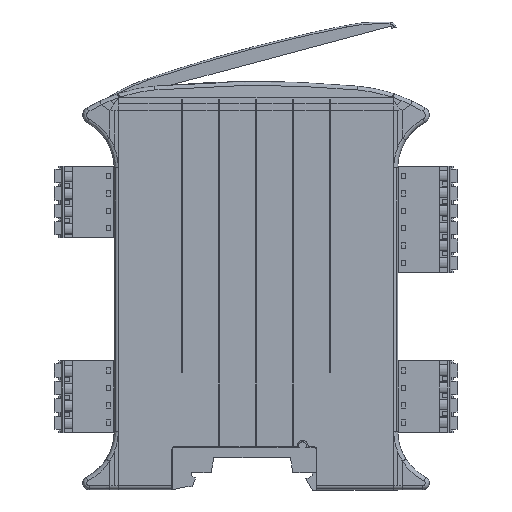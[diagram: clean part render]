
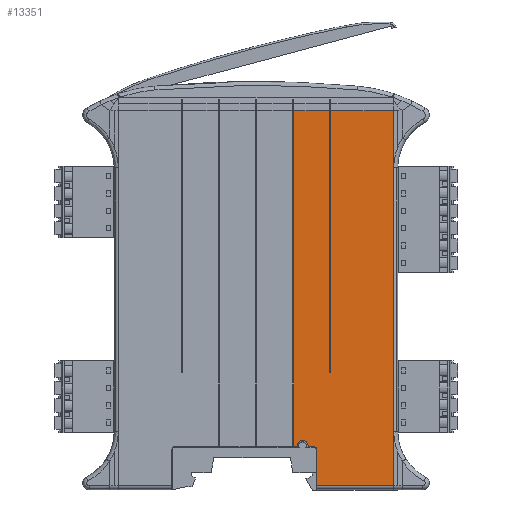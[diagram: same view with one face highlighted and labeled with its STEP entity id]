
A CAD part, left-side view. The second image highlights one B-rep face of the part: STEP entity #13351.
In plain terms, the highlighted planar face has unit normal (-1, 0, 0) as drawn and (0, 0, -1) by its records, which use the part's own axes.
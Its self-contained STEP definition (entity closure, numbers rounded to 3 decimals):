
#8523=CARTESIAN_POINT('Vertex',(5.342,19.209,0.)) ;
#9140=CARTESIAN_POINT('Vertex',(-4.958,19.209,0.)) ;
#9312=CARTESIAN_POINT('Vertex',(-5.458,19.209,0.)) ;
#10643=CARTESIAN_POINT('Vertex',(-4.958,-57.206,0.)) ;
#10646=CARTESIAN_POINT('Line Origine',(-4.958,-4.351,0.)) ;
#10673=CARTESIAN_POINT('Vertex',(-5.458,-57.206,0.)) ;
#10676=CARTESIAN_POINT('Line Origine',(-5.208,-57.206,0.)) ;
#10693=CARTESIAN_POINT('Line Origine',(-5.458,-44.529,0.)) ;
#10710=CARTESIAN_POINT('Line Origine',(4.867,-78.651,0.)) ;
#10714=CARTESIAN_POINT('Vertex',(5.342,-78.651,0.)) ;
#10716=CARTESIAN_POINT('Vertex',(4.392,-78.651,0.)) ;
#10766=CARTESIAN_POINT('Axis2P3D Location',(2.792,-78.651,0.)) ;
#10770=CARTESIAN_POINT('Vertex',(1.192,-78.651,0.)) ;
#10797=CARTESIAN_POINT('Line Origine',(0.542,-78.651,0.)) ;
#10801=CARTESIAN_POINT('Vertex',(-0.108,-78.651,0.)) ;
#10828=CARTESIAN_POINT('Axis2P3D Location',(-0.108,-79.651,0.)) ;
#10832=CARTESIAN_POINT('Vertex',(-1.108,-79.651,0.)) ;
#10859=CARTESIAN_POINT('Line Origine',(-1.108,-84.901,0.)) ;
#10863=CARTESIAN_POINT('Vertex',(-1.108,-90.151,0.)) ;
#10922=CARTESIAN_POINT('Line Origine',(16.392,19.209,0.)) ;
#10926=CARTESIAN_POINT('Vertex',(-23.579,19.209,0.)) ;
#10947=CARTESIAN_POINT('Line Origine',(16.392,19.209,0.)) ;
#10964=CARTESIAN_POINT('Line Origine',(5.342,-59.101,0.)) ;
#11065=CARTESIAN_POINT('Vertex',(-23.579,-90.151,0.)) ;
#11068=CARTESIAN_POINT('Line Origine',(41.642,-90.151,0.)) ;
#13326=CARTESIAN_POINT('Axis2P3D Location',(16.392,-31.851,0.)) ;
#13331=CARTESIAN_POINT('Line Origine',(-23.579,-35.471,0.)) ;
#10647=DIRECTION('Vector Direction',(0.,-1.,0.)) ;
#10677=DIRECTION('Vector Direction',(-1.,0.,0.)) ;
#10694=DIRECTION('Vector Direction',(0.,1.,0.)) ;
#10711=DIRECTION('Vector Direction',(-1.,0.,0.)) ;
#10767=DIRECTION('Axis2P3D Direction',(0.,0.,-1.)) ;
#10798=DIRECTION('Vector Direction',(-1.,0.,0.)) ;
#10829=DIRECTION('Axis2P3D Direction',(0.,0.,-1.)) ;
#10860=DIRECTION('Vector Direction',(0.,-1.,0.)) ;
#10923=DIRECTION('Vector Direction',(1.,0.,0.)) ;
#10948=DIRECTION('Vector Direction',(1.,0.,0.)) ;
#10965=DIRECTION('Vector Direction',(0.,1.,0.)) ;
#11069=DIRECTION('Vector Direction',(1.,0.,0.)) ;
#13327=DIRECTION('Axis2P3D Direction',(0.,0.,1.)) ;
#13328=DIRECTION('Axis2P3D XDirection',(1.,0.,0.)) ;
#13332=DIRECTION('Vector Direction',(0.,1.,0.)) ;
#10768=AXIS2_PLACEMENT_3D('Circle Axis2P3D',#10766,#10767,$) ;
#10830=AXIS2_PLACEMENT_3D('Circle Axis2P3D',#10828,#10829,$) ;
#13329=AXIS2_PLACEMENT_3D('Plane Axis2P3D',#13326,#13327,#13328) ;
#13337=ORIENTED_EDGE('',*,*,#10718,.T.) ;
#13338=ORIENTED_EDGE('',*,*,#10772,.T.) ;
#13339=ORIENTED_EDGE('',*,*,#10803,.T.) ;
#13340=ORIENTED_EDGE('',*,*,#10834,.T.) ;
#13341=ORIENTED_EDGE('',*,*,#10865,.T.) ;
#13342=ORIENTED_EDGE('',*,*,#11072,.F.) ;
#13343=ORIENTED_EDGE('',*,*,#13335,.T.) ;
#13344=ORIENTED_EDGE('',*,*,#10928,.F.) ;
#13345=ORIENTED_EDGE('',*,*,#10697,.F.) ;
#13346=ORIENTED_EDGE('',*,*,#10680,.F.) ;
#13347=ORIENTED_EDGE('',*,*,#10650,.F.) ;
#13348=ORIENTED_EDGE('',*,*,#10951,.F.) ;
#13349=ORIENTED_EDGE('',*,*,#10968,.F.) ;
#10648=VECTOR('Line Direction',#10647,1.) ;
#10678=VECTOR('Line Direction',#10677,1.) ;
#10695=VECTOR('Line Direction',#10694,1.) ;
#10712=VECTOR('Line Direction',#10711,1.) ;
#10799=VECTOR('Line Direction',#10798,1.) ;
#10861=VECTOR('Line Direction',#10860,1.) ;
#10924=VECTOR('Line Direction',#10923,1.) ;
#10949=VECTOR('Line Direction',#10948,1.) ;
#10966=VECTOR('Line Direction',#10965,1.) ;
#11070=VECTOR('Line Direction',#11069,1.) ;
#13333=VECTOR('Line Direction',#13332,1.) ;
#13351=ADVANCED_FACE('Solido1',(#13350),#13330,.F.) ;
#10769=CIRCLE('generated circle',#10768,1.6) ;
#10831=CIRCLE('generated circle',#10830,1.) ;
#10650=EDGE_CURVE('',#9141,#10644,#10649,.T.) ;
#10680=EDGE_CURVE('',#10644,#10674,#10679,.T.) ;
#10697=EDGE_CURVE('',#10674,#9313,#10696,.T.) ;
#10718=EDGE_CURVE('',#10715,#10717,#10713,.T.) ;
#10772=EDGE_CURVE('',#10717,#10771,#10769,.F.) ;
#10803=EDGE_CURVE('',#10771,#10802,#10800,.T.) ;
#10834=EDGE_CURVE('',#10802,#10833,#10831,.F.) ;
#10865=EDGE_CURVE('',#10833,#10864,#10862,.T.) ;
#10928=EDGE_CURVE('',#9313,#10927,#10925,.F.) ;
#10951=EDGE_CURVE('',#8524,#9141,#10950,.F.) ;
#10968=EDGE_CURVE('',#10715,#8524,#10967,.T.) ;
#11072=EDGE_CURVE('',#11066,#10864,#11071,.T.) ;
#13335=EDGE_CURVE('',#11066,#10927,#13334,.T.) ;
#13336=EDGE_LOOP('',(#13337,#13338,#13339,#13340,#13341,#13342,#13343,#13344,#13345,#13346,#13347,#13348,#13349)) ;
#13350=FACE_OUTER_BOUND('',#13336,.T.) ;
#10649=LINE('Line',#10646,#10648) ;
#10679=LINE('Line',#10676,#10678) ;
#10696=LINE('Line',#10693,#10695) ;
#10713=LINE('Line',#10710,#10712) ;
#10800=LINE('Line',#10797,#10799) ;
#10862=LINE('Line',#10859,#10861) ;
#10925=LINE('Line',#10922,#10924) ;
#10950=LINE('Line',#10947,#10949) ;
#10967=LINE('Line',#10964,#10966) ;
#11071=LINE('Line',#11068,#11070) ;
#13334=LINE('Line',#13331,#13333) ;
#13330=PLANE('',#13329) ;
#8524=VERTEX_POINT('',#8523) ;
#9141=VERTEX_POINT('',#9140) ;
#9313=VERTEX_POINT('',#9312) ;
#10644=VERTEX_POINT('',#10643) ;
#10674=VERTEX_POINT('',#10673) ;
#10715=VERTEX_POINT('',#10714) ;
#10717=VERTEX_POINT('',#10716) ;
#10771=VERTEX_POINT('',#10770) ;
#10802=VERTEX_POINT('',#10801) ;
#10833=VERTEX_POINT('',#10832) ;
#10864=VERTEX_POINT('',#10863) ;
#10927=VERTEX_POINT('',#10926) ;
#11066=VERTEX_POINT('',#11065) ;
